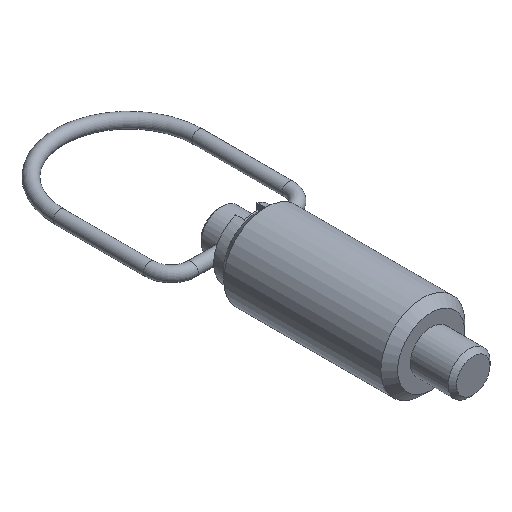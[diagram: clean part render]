
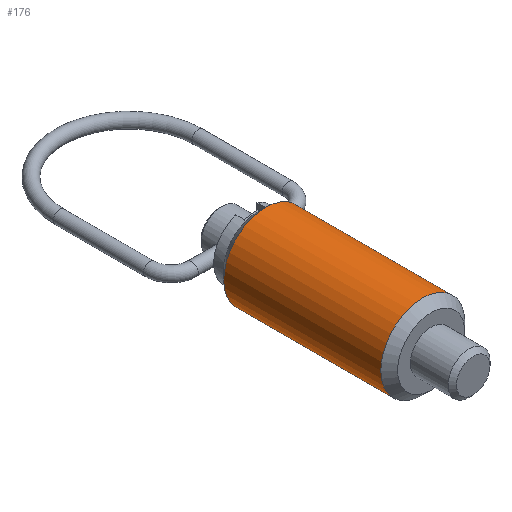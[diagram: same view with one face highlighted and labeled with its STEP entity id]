
A CAD part, isometric view. The second image highlights one B-rep face of the part: STEP entity #176.
In plain terms, the highlighted cylindrical face has radius 5 mm (diameter 10 mm), a full revolution.
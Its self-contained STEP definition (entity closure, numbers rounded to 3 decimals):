
#176 = ADVANCED_FACE( '', ( #225, #226 ), #227, .T. );
#225 = FACE_OUTER_BOUND( '', #332, .T. );
#226 = FACE_OUTER_BOUND( '', #333, .T. );
#227 = CYLINDRICAL_SURFACE( '', #334, 5. );
#332 = EDGE_LOOP( '', ( #474 ) );
#333 = EDGE_LOOP( '', ( #475 ) );
#334 = AXIS2_PLACEMENT_3D( '', #476, #477, #478 );
#474 = ORIENTED_EDGE( '', *, *, #663, .T. );
#475 = ORIENTED_EDGE( '', *, *, #664, .F. );
#476 = CARTESIAN_POINT( '', ( 0., 0., 0. ) );
#477 = DIRECTION( '', ( 0., 1., 0. ) );
#478 = DIRECTION( '', ( 0., 0., -1. ) );
#663 = EDGE_CURVE( '', #732, #732, #733, .T. );
#664 = EDGE_CURVE( '', #734, #734, #735, .T. );
#732 = VERTEX_POINT( '', #844 );
#733 = CIRCLE( '', #845, 5. );
#734 = VERTEX_POINT( '', #846 );
#735 = CIRCLE( '', #847, 5. );
#844 = CARTESIAN_POINT( '', ( 0., 19.7, -5. ) );
#845 = AXIS2_PLACEMENT_3D( '', #992, #993, #994 );
#846 = CARTESIAN_POINT( '', ( 0., 1., -5. ) );
#847 = AXIS2_PLACEMENT_3D( '', #995, #996, #997 );
#992 = CARTESIAN_POINT( '', ( 0., 19.7, 0. ) );
#993 = DIRECTION( '', ( 0., -1., 0. ) );
#994 = DIRECTION( '', ( 0., 0., -1. ) );
#995 = CARTESIAN_POINT( '', ( 0., 1., 0. ) );
#996 = DIRECTION( '', ( 0., -1., 0. ) );
#997 = DIRECTION( '', ( 0., 0., -1. ) );
